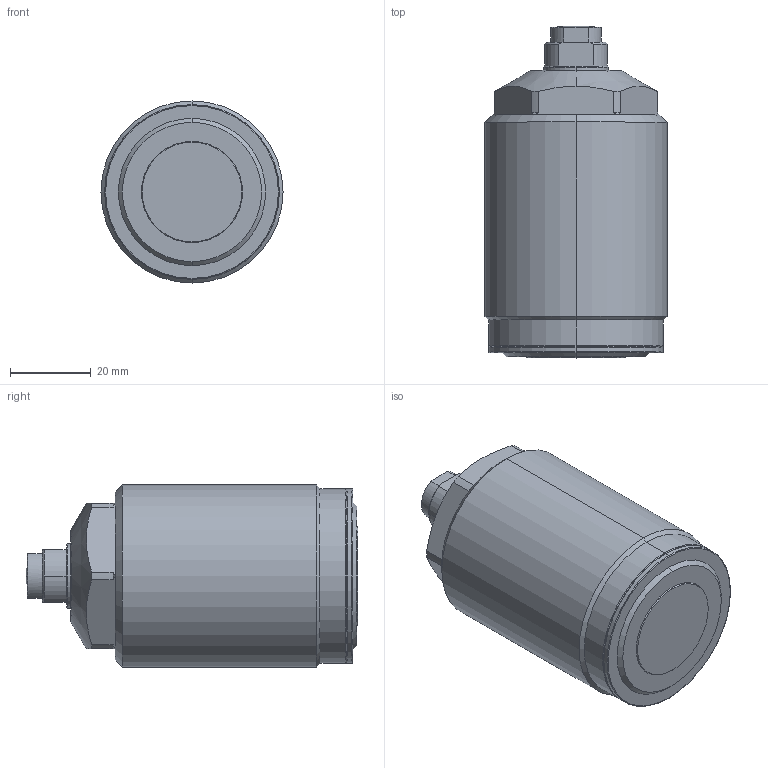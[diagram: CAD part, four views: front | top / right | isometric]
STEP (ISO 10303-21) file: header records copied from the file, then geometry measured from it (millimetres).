
FILE_DESCRIPTION(/* description */ (''),/* implementation_level */ '2;1');
FILE_NAME(/* name */ 'TSC06.stp',/* time_stamp */ '2022-11-16T14:43:26+08:00',/* author */ (''),/* organization */ (''),/* preprocessor_version */ 'ST-DEVELOPER v16.7',/* originating_system */ 'SIEMENS PLM Software NX 12.0',/* authorisation */ '');
FILE_SCHEMA (('AP203_CONFIGURATION_CONTROLLED_3D_DESIGN_OF_MECHANICAL_PARTS_AND_ASSEMBLIES_MIM_LF { 1 0 10303 403 2 1 2}'));
Length unit declared in the file: millimetre
Products named in the file (4): TSC06-01; TSC06-02; TSC06-03; CSY06_step
Assembly tree (3 placements, depth 2):
  CSY06_step
    TSC06-03
    TSC06-02
    TSC06-01
Bounding box: 45 x 82 x 45 mm (x, y, z)
Volume: 104920.9 mm3; surface area: 15020.5 mm2
Topology: 3 solids, 3 shells, 108 faces, 250 edges, 155 vertices
Faces by surface type: cylinder 35, plane 30, cone 23, torus 18, sphere 2
Entity records: 3581 total; most frequent: CARTESIAN_POINT 609, DIRECTION 590, ORIENTED_EDGE 500, AXIS2_PLACEMENT_3D 256, EDGE_CURVE 250, VERTEX_POINT 155, CIRCLE 144, EDGE_LOOP 117
